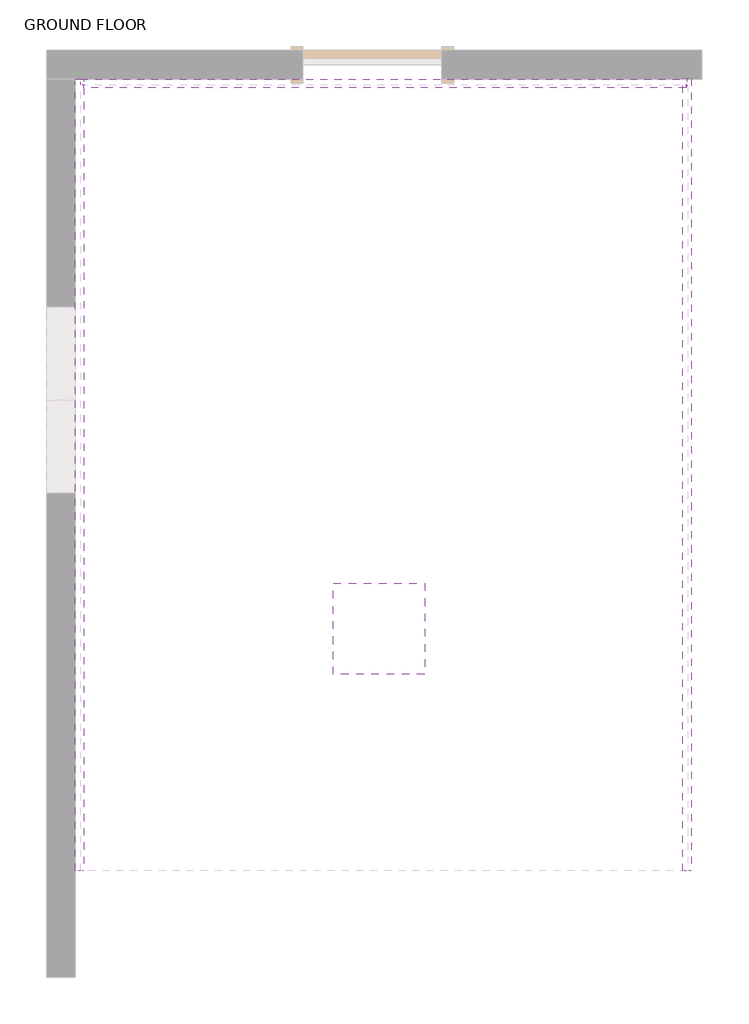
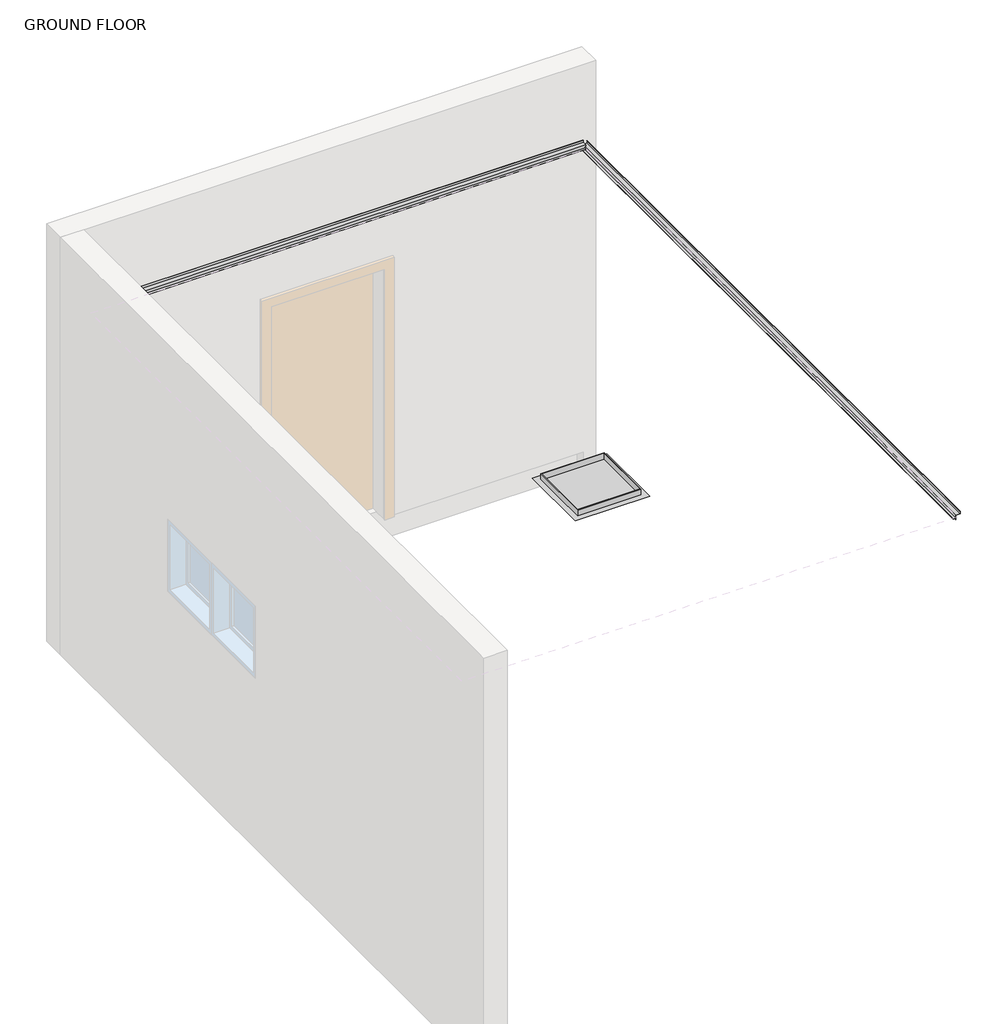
# One storey, part 2 of 2: 4 proxies.
"""IFC4 building model written with IfcOpenShell, lengths in millimetres."""

from ifc_helpers import new_model, si_unit, frame, origin, place, context, project, spatial, polyline, outline, extrude, faceted_brep, element, save

model = new_model("IFC4")

# Units and contexts
model_context = context("Model", 3, world=origin())
ifc_project = project(units=[si_unit("LENGTHUNIT", "METRE", prefix="MILLI")], contexts=[model_context])

# Site, building, storey
site = spatial("IfcSite", under=ifc_project)
building = spatial("IfcBuilding", under=site)
storey = spatial("IfcBuildingStorey", under=building, Name="GROUND FLOOR", Elevation=0.0)

# Proxies
placement = place(None, origin())
element("IfcBuildingElementProxy", 1, Name="Ceiling_Access_HatchPanel_Parametric : Top Hung", ObjectType="Ceiling_Access_HatchPanel_Parametric : Top Hung", at=placement, inside=storey, context=model_context, shape_type="SolidModel", body=[
    faceted_brep([(122182.6212716, 38859.9489557, 2650.0), (122182.6212716, 38349.2489557, 2650.0), (122693.3212716, 38349.2489557, 2650.0), (122693.3212716, 38859.9489557, 2650.0), (122188.9712716, 38853.5989557, 2650.0), (122686.9712716, 38853.5989557, 2650.0), (122686.9712716, 38355.5989557, 2650.0), (122188.9712716, 38355.5989557, 2650.0), (122182.6212716, 38859.9489557, 2600.0), (122693.3212716, 38859.9489557, 2600.0), (122693.3212716, 38349.2489557, 2600.0), (122182.6212716, 38349.2489557, 2600.0), (122188.9712716, 38853.5989557, 2600.0), (122188.9712716, 38355.5989557, 2600.0), (122686.9712716, 38355.5989557, 2600.0), (122686.9712716, 38853.5989557, 2600.0), (122182.6212716, 38859.9489557, 2611.0), (122182.6212716, 38349.2489557, 2611.0), (122693.3212716, 38349.2489557, 2611.0), (122693.3212716, 38859.9489557, 2611.0)], [[[0, 1, 2, 3], [4, 5, 6, 7]], [[8, 9, 10, 11], [12, 13, 14, 15]], [[5, 4, 12, 15]], [[6, 5, 15, 14]], [[7, 6, 14, 13]], [[4, 7, 13, 12]], [[1, 0, 16, 8, 11, 17]], [[2, 1, 17, 11, 10, 18]], [[3, 2, 18, 10, 9, 19]], [[0, 3, 19, 9, 8, 16]]]),
    extrude(outline(polyline([(122188.9712716, 38853.5989557), (122686.9712716, 38853.5989557), (122686.9712716, 38355.5989557), (122188.9712716, 38355.5989557), (122188.9712716, 38853.5989557)])), frame((0.0, 0.0, 2593.65), z_axis=(0.0, 0.0, 1.0), x_axis=(1.0, 0.0, 0.0)), (0.0, 0.0, 1.0), 6.35),
    faceted_brep([(122188.9712716, 38853.5989557, 2600.0), (122188.9712716, 38853.5989557, 2590.475), (122686.9712716, 38853.5989557, 2590.475), (122686.9712716, 38853.5989557, 2600.0), (122686.9712716, 38355.5989557, 2590.475), (122686.9712716, 38355.5989557, 2600.0), (122188.9712716, 38355.5989557, 2590.475), (122188.9712716, 38355.5989557, 2600.0), (122725.0712716, 38891.6989557, 2590.475), (122725.0712716, 38317.4989557, 2590.475), (122150.8712716, 38317.4989557, 2590.475), (122150.8712716, 38891.6989557, 2590.475), (122138.1712716, 38904.3989557, 2600.0), (122138.1712716, 38304.7989557, 2600.0), (122737.7712716, 38304.7989557, 2600.0), (122737.7712716, 38904.3989557, 2600.0)], [[[0, 1, 2, 3]], [[3, 2, 4, 5]], [[5, 4, 6, 7]], [[8, 9, 10, 11], [1, 6, 4, 2]], [[12, 13, 14, 15], [3, 5, 7, 0]], [[7, 6, 1, 0]], [[11, 12, 15, 8]], [[8, 15, 14, 9]], [[9, 14, 13, 10]], [[10, 13, 12, 11]]]),
])
element("IfcBuildingElementProxy", 2, Name="TR03 : Trims Pelican Systems Plaster Trim 35 x 35", ObjectType="TR03 : Trims Pelican Systems Plaster Trim 35 x 35", at=placement, inside=storey, context=model_context, shape_type="Brep", body=[
    faceted_brep([(124460.7345529, 42161.9193804, 2612.0), (124460.7345529, 42161.9193804, 2611.0), (124460.7345529, 42181.9193804, 2611.0), (124460.7345529, 42181.9193804, 2600.0), (124460.7345529, 42182.9193804, 2600.0), (124460.7345529, 42182.9193804, 2619.0), (124460.7345529, 42181.9193804, 2619.0), (124460.7345529, 42181.9193804, 2612.0), (124456.7345529, 42182.9193804, 2600.0), (124456.7345529, 42182.9193804, 2619.0), (124456.7345529, 42181.9193804, 2600.0), (124456.7345529, 42181.9193804, 2619.0), (124456.7345529, 42181.9193804, 2612.0), (124456.7345529, 42161.9193804, 2611.0), (124456.7345529, 42181.9193804, 2611.0), (124456.7345529, 42161.9193804, 2612.0)], [[[0, 1, 2, 3, 4, 5, 6, 7]], [[5, 4, 8, 9]], [[4, 3, 10, 8]], [[7, 6, 11, 12]], [[2, 1, 13, 14]], [[1, 0, 15, 13]], [[0, 7, 12, 15]], [[3, 2, 14, 10]], [[9, 11, 6, 5]], [[11, 9, 8, 10, 14, 13, 15, 12]]]),
    faceted_brep([(120380.7345529, 42217.9193804, 2656.0), (120380.7345529, 42217.9193804, 2635.0), (120380.7345529, 42182.9193804, 2635.0), (120380.7345529, 42182.9193804, 2600.0), (120380.7345529, 42181.9193804, 2600.0), (120380.7345529, 42181.9193804, 2611.0), (120380.7345529, 42161.9193804, 2611.0), (120380.7345529, 42161.9193804, 2612.0), (120380.7345529, 42181.9193804, 2612.0), (120380.7345529, 42181.9193804, 2636.0), (120380.7345529, 42216.9193804, 2636.0), (120380.7345529, 42216.9193804, 2656.0), (120442.7345529, 42181.9193804, 2635.0), (120442.7345529, 42182.9193804, 2635.0), (120442.7345529, 42217.9193804, 2635.0), (120442.7345529, 42217.9193804, 2656.0), (120442.7345529, 42216.9193804, 2656.0), (120442.7345529, 42216.9193804, 2636.0), (120442.7345529, 42181.9193804, 2636.0), (120477.7345529, 42181.9193804, 2635.0), (120477.7345529, 42182.9193804, 2635.0), (120477.7345529, 42161.9193804, 2611.0), (120477.7345529, 42181.9193804, 2611.0), (120477.7345529, 42181.9193804, 2600.0), (120477.7345529, 42182.9193804, 2600.0), (120477.7345529, 42181.9193804, 2612.0), (120477.7345529, 42161.9193804, 2612.0)], [[[0, 1, 2, 3, 4, 5, 6, 7, 8, 9, 10, 11]], [[12, 13, 14, 15, 16, 17, 18]], [[13, 12, 19, 20]], [[21, 22, 23, 24, 20, 19, 25, 26]], [[7, 6, 21, 26]], [[3, 2, 13, 20, 24]], [[4, 3, 24, 23]], [[9, 8, 25, 19, 12, 18]], [[6, 5, 22, 21]], [[8, 7, 26, 25]], [[5, 4, 23, 22]], [[2, 1, 14, 13]], [[10, 9, 18, 17]], [[1, 0, 15, 14]], [[0, 11, 16, 15]], [[11, 10, 17, 16]]]),
    faceted_brep([(124460.7345529, 42217.9193804, 2656.0), (124460.7345529, 42217.9193804, 2635.0), (120478.7345529, 42217.9193804, 2635.0), (120478.7345529, 42217.9193804, 2636.0), (120443.7345529, 42217.9193804, 2636.0), (120443.7345529, 42217.9193804, 2656.0), (124460.7345529, 42182.9193804, 2635.0), (120478.7345529, 42182.9193804, 2635.0), (124460.7345529, 42181.9193804, 2636.0), (124460.7345529, 42216.9193804, 2636.0), (120478.7345529, 42216.9193804, 2636.0), (120478.7345529, 42181.9193804, 2636.0), (124460.7345529, 42216.9193804, 2656.0), (120443.7345529, 42216.9193804, 2656.0), (124460.7345529, 42181.9193804, 2620.0), (124460.7345529, 42182.9193804, 2620.0), (120443.7345529, 42216.9193804, 2636.0), (120478.7345529, 42182.9193804, 2612.0), (120478.7345529, 42181.9193804, 2612.0), (124455.7345529, 42182.9193804, 2620.0), (124455.7345529, 42181.9193804, 2620.0), (124455.7345529, 42181.9193804, 2612.0), (124455.7345529, 42161.9193804, 2612.0), (124455.7345529, 42161.9193804, 2611.0), (124455.7345529, 42181.9193804, 2611.0), (124455.7345529, 42181.9193804, 2600.0), (124455.7345529, 42182.9193804, 2600.0), (120478.7345529, 42182.9193804, 2600.0), (120478.7345529, 42182.9193804, 2611.0), (120498.7345529, 42182.9193804, 2611.0), (120498.7345529, 42182.9193804, 2612.0), (120478.7345529, 42181.9193804, 2600.0), (120498.7345529, 42181.9193804, 2612.0), (120498.7345529, 42161.9193804, 2611.0), (120498.7345529, 42181.9193804, 2611.0), (120498.7345529, 42161.9193804, 2612.0), (120478.7345529, 42181.9193804, 2611.0)], [[[0, 1, 2, 3, 4, 5]], [[1, 6, 7, 2]], [[8, 9, 10, 11]], [[12, 0, 5, 13]], [[0, 12, 9, 8, 14, 15, 6, 1]], [[9, 12, 13, 16, 10]], [[7, 17, 18, 11, 10, 3, 2]], [[3, 10, 16, 4]], [[5, 4, 16, 13]], [[19, 20, 21, 22, 23, 24, 25, 26]], [[20, 19, 15, 14]], [[17, 7, 6, 15, 19, 26, 27, 28, 29, 30]], [[31, 27, 26, 25]], [[8, 11, 18, 32, 21, 20, 14]], [[33, 34, 24, 23]], [[35, 33, 23, 22]], [[32, 35, 22, 21]], [[34, 36, 31, 25, 24]], [[28, 36, 34, 29]], [[29, 34, 33, 35, 32, 30]], [[18, 17, 30, 32]], [[36, 28, 27, 31]]]),
])
element("IfcBuildingElementProxy", 3, Name="TR03 : Trims Pelican Systems Plaster Trim 35 x 35", ObjectType="TR03 : Trims Pelican Systems Plaster Trim 35 x 35", at=placement, inside=storey, context=model_context, shape_type="Brep", body=[
    faceted_brep([(124491.7345529, 37012.9193804, 2640.0), (124490.7345529, 37012.9193804, 2640.0), (124490.7345529, 37012.9193804, 2620.0), (124455.7345529, 37012.9193804, 2620.0), (124455.7345529, 37012.9193804, 2596.0), (124435.7345529, 37012.9193804, 2596.0), (124435.7345529, 37012.9193804, 2595.0), (124455.7345529, 37012.9193804, 2595.0), (124455.7345529, 37012.9193804, 2584.0), (124456.7345529, 37012.9193804, 2584.0), (124456.7345529, 37012.9193804, 2619.0), (124491.7345529, 37012.9193804, 2619.0), (124491.7345529, 42222.9193804, 2640.0), (124491.7345529, 42222.9193804, 2619.0), (124456.7345529, 42222.9193804, 2619.0), (124456.7345529, 42222.9193804, 2584.0), (124455.7345529, 42222.9193804, 2584.0), (124455.7345529, 42222.9193804, 2595.0), (124435.7345529, 42222.9193804, 2595.0), (124435.7345529, 42222.9193804, 2596.0), (124455.7345529, 42222.9193804, 2596.0), (124455.7345529, 42222.9193804, 2620.0), (124490.7345529, 42222.9193804, 2620.0), (124490.7345529, 42222.9193804, 2640.0), (124456.7345529, 42181.9193804, 2619.0), (124456.7345529, 42182.9193804, 2619.0), (124455.7345529, 42181.9193804, 2620.0), (124455.7345529, 42182.9193804, 2620.0)], [[[0, 1, 2, 3, 4, 5, 6, 7, 8, 9, 10, 11]], [[12, 13, 14, 15, 16, 17, 18, 19, 20, 21, 22, 23]], [[11, 13, 12, 0]], [[10, 24, 25, 14, 13, 11]], [[9, 15, 14, 25, 24, 10]], [[8, 16, 15, 9]], [[6, 18, 17, 7]], [[5, 19, 18, 6]], [[4, 20, 19, 5]], [[3, 26, 27, 21, 20, 4]], [[2, 22, 21, 27, 26, 3]], [[1, 23, 22, 2]], [[0, 12, 23, 1]], [[7, 17, 16, 8]]]),
])
element("IfcBuildingElementProxy", 4, Name="TR03 : Trims Pelican Systems Plaster Trim 35 x 35", ObjectType="TR03 : Trims Pelican Systems Plaster Trim 35 x 35", at=placement, inside=storey, context=model_context, shape_type="Brep", body=[
    faceted_brep([(120442.7345529, 42217.9193804, 2656.0), (120443.7345529, 42217.9193804, 2656.0), (120443.7345529, 42217.9193804, 2636.0), (120478.7345529, 42217.9193804, 2636.0), (120478.7345529, 42217.9193804, 2635.0), (120478.7345529, 42217.9193804, 2612.0), (120498.7345529, 42217.9193804, 2612.0), (120498.7345529, 42217.9193804, 2611.0), (120478.7345529, 42217.9193804, 2611.0), (120478.7345529, 42217.9193804, 2600.0), (120477.7345529, 42217.9193804, 2600.0), (120477.7345529, 42217.9193804, 2635.0), (120442.7345529, 42217.9193804, 2635.0), (120442.7345529, 37012.9193804, 2656.0), (120442.7345529, 37012.9193804, 2635.0), (120477.7345529, 37012.9193804, 2635.0), (120477.7345529, 37012.9193804, 2600.0), (120478.7345529, 37012.9193804, 2600.0), (120478.7345529, 37012.9193804, 2611.0), (120498.7345529, 37012.9193804, 2611.0), (120498.7345529, 37012.9193804, 2612.0), (120478.7345529, 37012.9193804, 2612.0), (120478.7345529, 37012.9193804, 2636.0), (120443.7345529, 37012.9193804, 2636.0), (120443.7345529, 37012.9193804, 2656.0), (120442.7345529, 42182.9193804, 2635.0), (120442.7345529, 42181.9193804, 2635.0), (120442.7345529, 42216.9193804, 2656.0), (120477.7345529, 42182.9193804, 2635.0), (120477.7345529, 42181.9193804, 2635.0), (120477.7345529, 42182.9193804, 2600.0), (120477.7345529, 42181.9193804, 2600.0), (120478.7345529, 42182.9193804, 2600.0), (120478.7345529, 42181.9193804, 2600.0), (120478.7345529, 42216.9193804, 2636.0), (120478.7345529, 42181.9193804, 2636.0), (120478.7345529, 42181.9193804, 2612.0), (120478.7345529, 42182.9193804, 2612.0), (120498.7345529, 42182.9193804, 2611.0), (120498.7345529, 42181.9193804, 2611.0), (120498.7345529, 42161.9193804, 2611.0), (120478.7345529, 42181.9193804, 2611.0), (120478.7345529, 42182.9193804, 2611.0), (120498.7345529, 42182.9193804, 2612.0), (120498.7345529, 42181.9193804, 2612.0), (120498.7345529, 42161.9193804, 2612.0), (120443.7345529, 42216.9193804, 2636.0), (120443.7345529, 42216.9193804, 2656.0)], [[[0, 1, 2, 3, 4, 5, 6, 7, 8, 9, 10, 11, 12]], [[13, 14, 15, 16, 17, 18, 19, 20, 21, 22, 23, 24]], [[12, 25, 26, 14, 13, 27, 0]], [[11, 28, 29, 15, 14, 26, 25, 12]], [[10, 30, 31, 16, 15, 29, 28, 11]], [[9, 32, 33, 17, 16, 31, 30, 10]], [[3, 34, 35, 22, 21, 36, 37, 5, 4]], [[7, 38, 39, 40, 19, 18, 41, 42, 8]], [[6, 43, 44, 45, 20, 19, 40, 39, 38, 7]], [[5, 37, 36, 21, 20, 45, 44, 43, 6]], [[2, 46, 23, 22, 35, 34, 3]], [[0, 27, 13, 24, 47, 1]], [[8, 42, 41, 18, 17, 33, 32, 9]], [[1, 47, 24, 23, 46, 2]]]),
])

save(model, "model.ifc")
